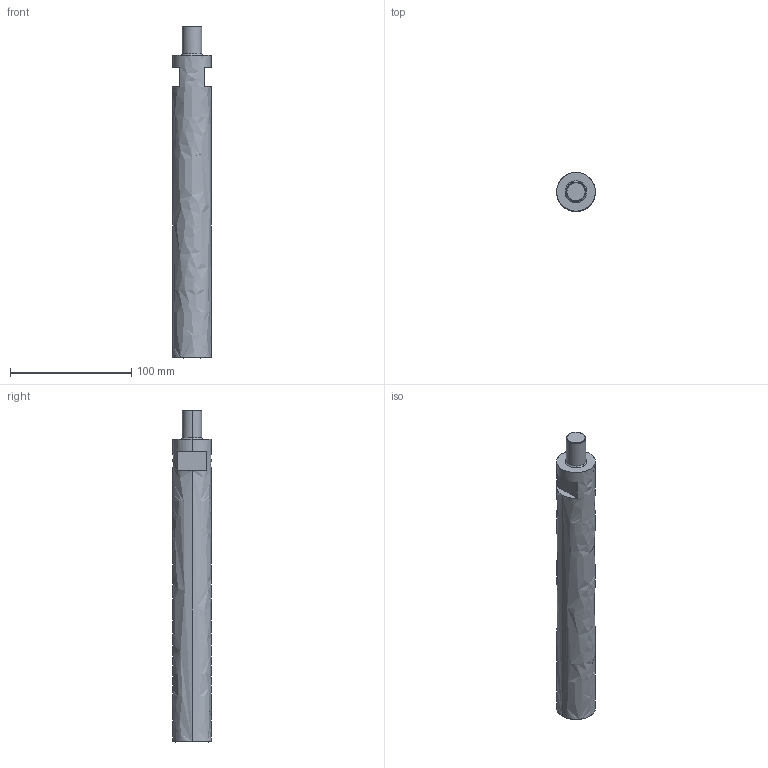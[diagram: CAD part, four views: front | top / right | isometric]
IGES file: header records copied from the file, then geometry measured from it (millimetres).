
Global section: file name: E:\UnigraphicsGraphicData\MISUMI_PRESS-PARTS\IGES\3d_mcup32-250_01363_r00.igs; native system: NX V5.0; preprocessor: UGS NX IGES V5.0; author: MISUMI; date: 20110105.161310; units: millimetre
Bounding box: 32 x 32 x 274 mm (x, y, z)
Surface area: 28147.5 mm2 (no closed solid volume)
Topology: 0 solids, 0 shells, 19 faces, 132 edges, 132 vertices
Faces by surface type: bspline 19
